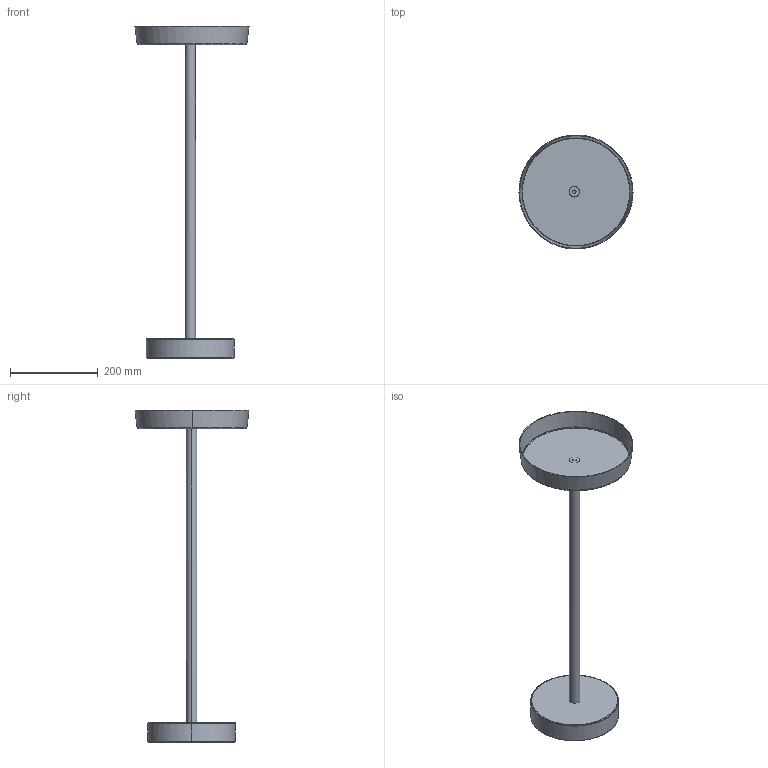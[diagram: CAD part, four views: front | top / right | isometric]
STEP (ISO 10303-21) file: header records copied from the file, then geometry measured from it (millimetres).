
FILE_DESCRIPTION(/* description */ (''),/* implementation_level */ '2;1');
FILE_NAME(/* name */ 'BINCAN POSACENERE',/* time_stamp */ '2017-05-22T19:20:52+02:00',/* author */ (''),/* organization */ (''),/* preprocessor_version */ 'ST-DEVELOPER v10',/* originating_system */ '',/* authorisation */ '');
FILE_SCHEMA (('CONFIG_CONTROL_DESIGN'));
Length unit declared in the file: millimetre
Products named in the file (1): 1
Bounding box: 260 x 259.93 x 757 mm (x, y, z)
Volume: 125413 mm3; surface area: 392448.6 mm2
Topology: 1 solids, 15 shells, 34 faces, 91 edges, 66 vertices
Faces by surface type: bspline 23, plane 11
Entity records: 1286 total; most frequent: CARTESIAN_POINT 724, ORIENTED_EDGE 130, EDGE_CURVE 92, VERTEX_POINT 66, EDGE_LOOP 39, ADVANCED_FACE 34, FACE_OUTER_BOUND 34, DIRECTION 17
